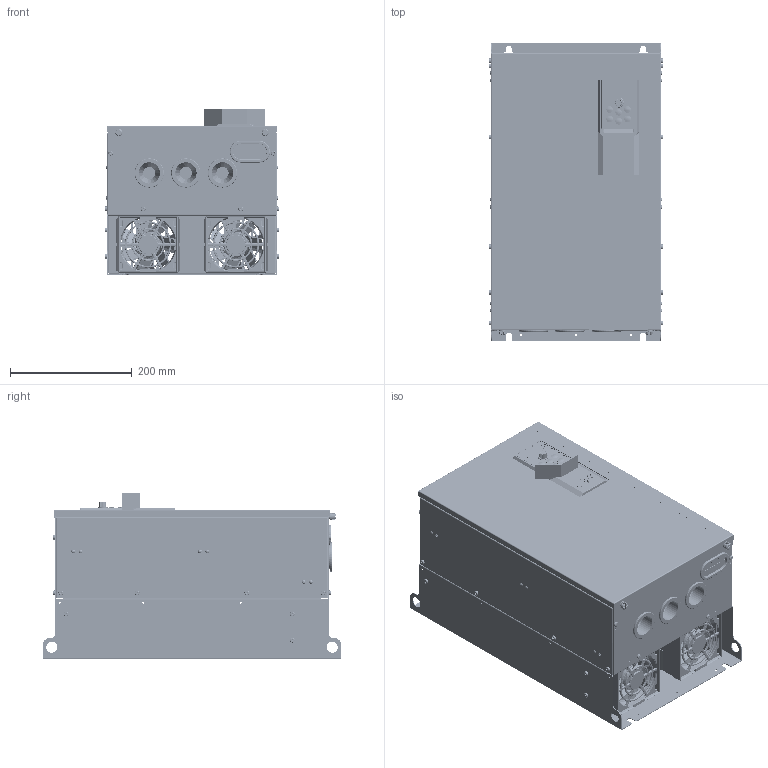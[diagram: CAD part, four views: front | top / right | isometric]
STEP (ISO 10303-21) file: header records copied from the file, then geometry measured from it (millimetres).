
FILE_DESCRIPTION((''),'2;1');
FILE_NAME('AD800P-D5-DRIVE_ASM','2024-12-11T17:03:52',('wendong.luo'),(''),'CREO PARAMETRIC BY PTC INC, 2018100','CREO PARAMETRIC BY PTC INC, 2018100','');
FILE_SCHEMA(('CONFIG_CONTROL_DESIGN','GEOMETRIC_VALIDATION_PROPERTIES_MIM'));
Products named in the file (71): D5-MECHANICAL-PART; M0204012; M0204033; RIVETING-NUT-4; M0202008; M0202003; M0202009; M0100015; M0202014; FASTEN_ASM; E0400063; E0400064; M0104021; FAN9238; FAN-ASM-9238_ASM; M0104030; M0104149; E0100736; E0400142; E0400150; E0400073; E0400116; E0400023; E0100736_ASM; E0200416; M0104143; E0400117; E0100735; 0603; SOT-23; SO-14; E0300000; SOD-6; E0300008; LQFP64; 1206; SMD3215-2P; 0805; SO-8; P3_5_3_2_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
Assembly tree (435 placements, depth 5):
  AD800P-D5-DRIVE_ASM
    D5-MECHANICAL-PART
    M0204012  x3
    M0204033
    FASTEN_ASM
      RIVETING-NUT-4  x12
      M0202008  x22
      M0202003  x12
      M0202009  x2
      M0100015  x2
      M0202014  x2
    E0400063
    E0400064
    FAN-ASM-9238_ASM  x2
      M0104021
      FAN9238
    M0104030
    CU0P-ASSY_ASM
      M0104149
      E0100736_ASM
        E0100736
        E0400142
        E0400150
        E0400073  x2
        E0400116
        E0400023
      E0200416
      M0104143
      E0400117
      E0100735_ASM
        E0100735
        0603  x193
        SOT-23  x51
        SO-14  x2
        E0300000
        SOD-6  x4
        E0300008  x2
        LQFP64
        E0400116
        1206  x32
        SMD3215-2P
        0805  x20
        SO-8  x2
        P3_5_3_2_
        SMM0207  x2
        SOT-223
        TO252
        SC70-6
        1210  x2
        E0400035
        E0400118
        E0400023
        E0400011
      EXTERNAL_KEYPAD_ASM
        M0104016
        M0104018
        E0100102_ASM
          E0100102
          0805-LED  x6
          E0300012
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Bounding box: 286.2 x 490 x 273.5 mm (x, y, z)
Volume: 2226742.1 mm3; surface area: 2113257.4 mm2
Topology: 478 solids, 543 shells, 31778 faces, 82980 edges, 53186 vertices
Faces by surface type: plane 19341, cylinder 6782, bspline 1930, extrusion 1715, cone 956, torus 623, sphere 431
Entity records: 910960 total; most frequent: CARTESIAN_POINT 208893, ORIENTED_EDGE 109522, DIRECTION 93903, EDGE_CURVE 54929, PRESENTATION_STYLE_ASSIGNMENT 49491, STYLED_ITEM 45770, CURVE_STYLE 41195, VECTOR 39971
